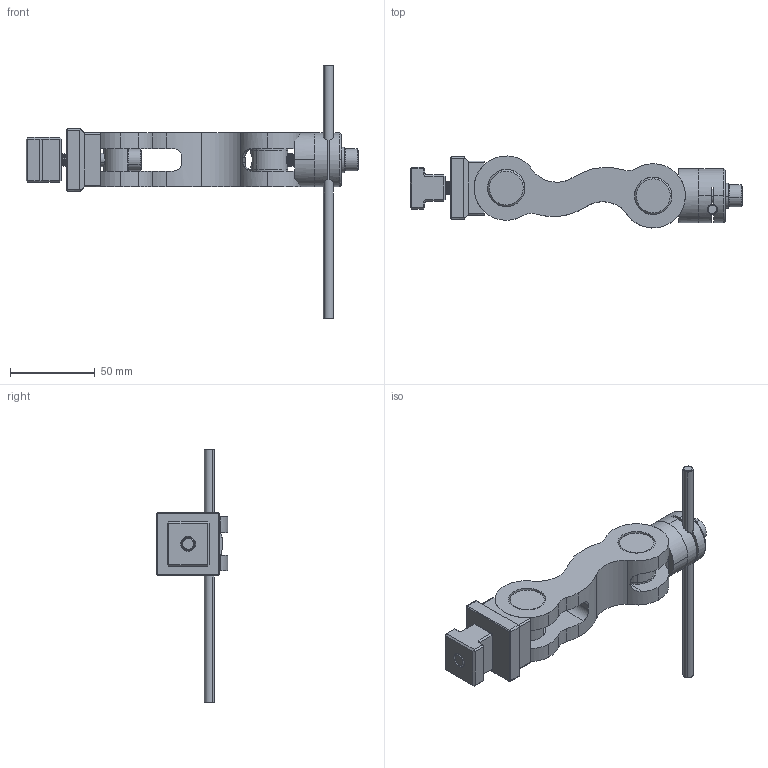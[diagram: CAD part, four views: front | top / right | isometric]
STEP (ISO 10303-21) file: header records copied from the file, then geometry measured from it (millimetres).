
FILE_DESCRIPTION (( 'STEP AP203' ), '1' );
FILE_NAME ('05-0246 STOPPER-2 ASSY.STEP', '2023-01-20T16:07:55', ( '' ), ( '' ), 'SwSTEP 2.0', 'SolidWorks 2021', '' );
FILE_SCHEMA (( 'CONFIG_CONTROL_DESIGN' ));
Length unit declared in the file: inch
Products named in the file (12): AAR-INT-12.1_1; AAR-INT-12.7_1; AAR-INT-12.6_1; AAR-INT-12.8_1; AAR-INT-12.5_1; AAR-INT-12.3_1; M8 X 50MM SHCS_1; 05-0246 STOPPER-2 ASSY; M8 WASHER; M8 X 60MM SHCS_1; AAR-INT-12.4_1; AAR-INT-12.2_1
Assembly tree (11 placements, depth 2):
  05-0246 STOPPER-2 ASSY
    AAR-INT-12.1_1
    AAR-INT-12.2_1
    AAR-INT-12.3_1
    AAR-INT-12.4_1
    AAR-INT-12.5_1
    AAR-INT-12.6_1
    AAR-INT-12.7_1
    AAR-INT-12.8_1
    M8 WASHER
    M8 X 50MM SHCS_1
    M8 X 60MM SHCS_1
Bounding box: 196.3 x 42.52 x 150 mm (x, y, z)
Volume: 137156.6 mm3; surface area: 49045.5 mm2
Topology: 11 solids, 11 shells, 365 faces, 921 edges, 576 vertices
Faces by surface type: cylinder 175, plane 132, cone 44, bspline 14
Entity records: 22779 total; most frequent: CARTESIAN_POINT 13264, ORIENTED_EDGE 1834, DIRECTION 1629, EDGE_CURVE 917, AXIS2_PLACEMENT_3D 601, VERTEX_POINT 576, LINE 427, VECTOR 427
